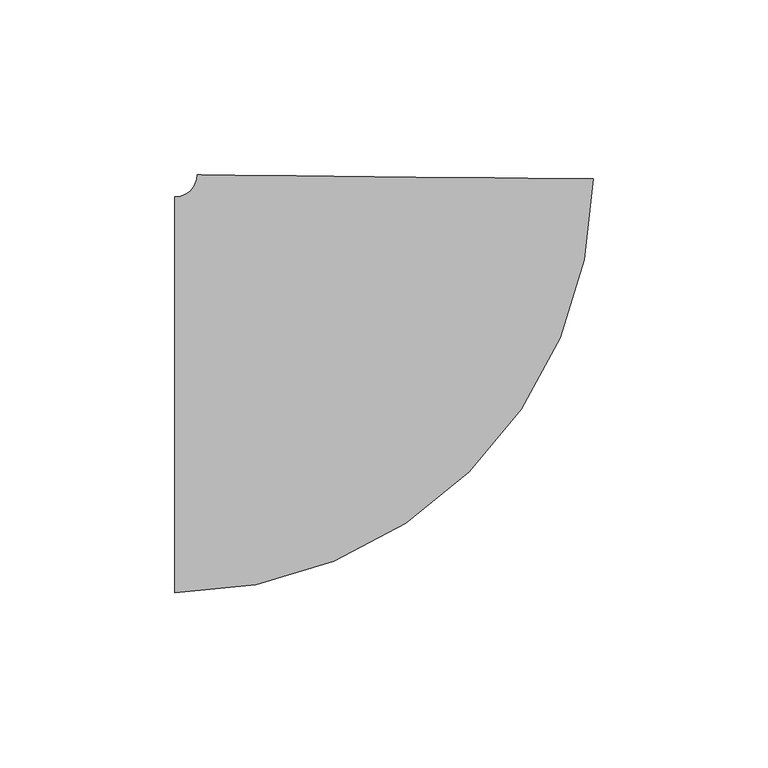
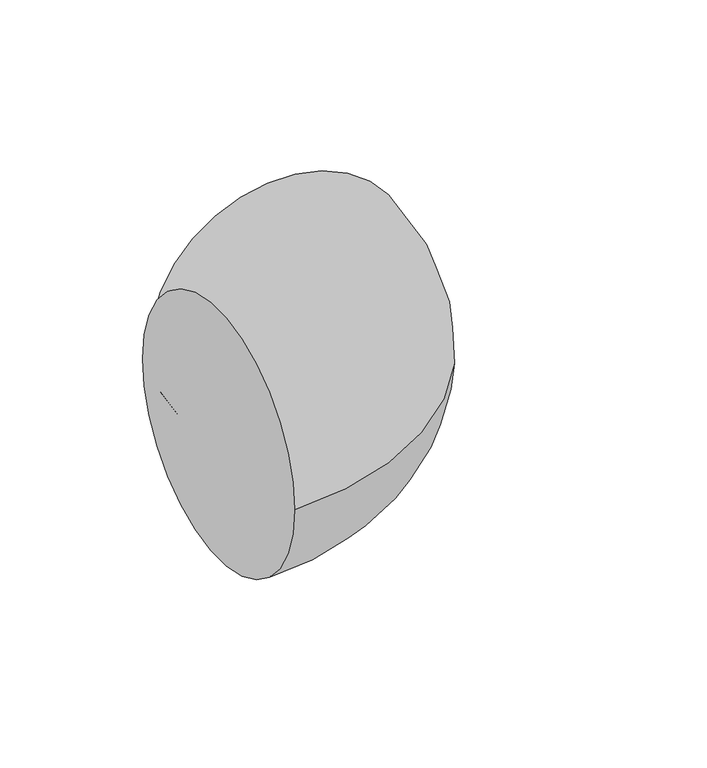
"""IFC4 building model written with IfcOpenShell, lengths in millimetres: pipe fitting geometry, M_Codo - Genérico : Estándar."""

from ifc_helpers import new_model, si_unit, point, frame, origin, place, context, project, spatial, circle_curve, ellipse_curve, trimmed, source, transform, mapped, element, save
from ifc_brep_helpers import plane_surface, revolved_surface, advanced_brep


def pipe_fitting_0698fb7b(model_context):
    return source(origin(), model_context, "Body", "AdvancedBrep", [
        advanced_brep(
        [(-62.3112543, -56.5875, 0.0), (-62.3112543, 56.5875, 0.0), (57.2077696, 61.7422762, 0.0), (-55.9615718, 62.8740014, 0.0)],
        [
            (0, 1, circle_curve(frame((-62.3112543, 0.0, 0.0), z_axis=(-1.0, 0.0, 0.0), x_axis=(0.0, 1.0, 0.0)), 56.5875)),
            (1, 0, circle_curve(frame((-62.3112543, 0.0, 0.0), z_axis=(-1.0, 0.0, 0.0), x_axis=(0.0, 1.0, 0.0)), 56.5875)),
            (2, 3, circle_curve(frame((0.6230989, 62.3081388, 0.0), z_axis=(0.009999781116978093, 0.9999500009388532, 0.0), x_axis=(-0.9999500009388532, 0.009999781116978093, 0.0)), 56.5875)),
            (3, 2, circle_curve(frame((0.6230989, 62.3081388, 0.0), z_axis=(0.009999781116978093, 0.9999500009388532, 0.0), x_axis=(-0.9999500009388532, 0.009999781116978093, 0.0)), 56.5875)),
            (3, 1, circle_curve(frame((-62.3112543, 62.9375, 0.0), z_axis=(0.0, 0.0, -1.0), x_axis=(0.0, -1.0, 0.0)), 6.35)),
            (0, 2, circle_curve(frame((-62.3112543, 62.9375, 0.0), z_axis=(0.0, 0.0, 1.0), x_axis=(0.0, -1.0, 0.0)), 119.525)),
        ],
        [
            plane_surface(frame((-62.3112543, 0.0, 0.0), z_axis=(-1.0, 0.0, 0.0), x_axis=(0.0, 0.0, 1.0))),
            plane_surface(frame((0.6230989, 62.3081388, 0.0), z_axis=(0.00999978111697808, 0.9999500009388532, 0.0), x_axis=(0.0, 0.0, 1.0))),
            revolved_surface(trimmed(ellipse_curve(frame((-62.3112543, 0.0, 0.0), z_axis=(-1.0, 0.0, 0.0), x_axis=(0.0, 1.0, 0.0)), 56.5875, 56.5875), [point((-62.3112543, -56.5875, 0.0))], [point((-62.3112543, 56.5875, 0.0))], True, "CARTESIAN"), (-62.3112543, 62.9375, 0.0), (0.0, 0.0, 1.0)),
            revolved_surface(trimmed(ellipse_curve(frame((-62.3112543, 0.0, 0.0), z_axis=(-1.0, 0.0, 0.0), x_axis=(0.0, 1.0, 0.0)), 56.5875, 56.5875), [point((-62.3112543, 56.5875, 0.0))], [point((-62.3112543, -56.5875, 0.0))], True, "CARTESIAN"), (-62.3112543, 62.9375, 0.0), (0.0, 0.0, 1.0)),
        ],
        [
            (0, [[1, 2]]),
            (1, [[3, 4]]),
            (2, [[5, -1, 6, -4]]),
            (3, [[-6, -2, -5, -3]]),
        ],
    ),
    ])


if __name__ == "__main__":
    model = new_model("IFC4")
    model_context = context("Model", 3, world=origin())
    ifc_project = project(units=[si_unit("LENGTHUNIT", "METRE", prefix="MILLI")], contexts=[model_context])
    site = spatial("IfcSite", under=ifc_project)
    building = spatial("IfcBuilding", under=site)
    placement = place(None, origin())
    pipe_fitting_shape = pipe_fitting_0698fb7b(model_context)
    element("IfcPipeFitting", 1, ObjectType="M_Codo - Genérico : Estándar", at=placement, inside=building, context=model_context, shape_type="MappedRepresentation", body=[
        mapped(pipe_fitting_shape, transform((0.0, 0.0, 0.0), x_axis=(1.0, 0.0, 0.0), y_axis=(0.0, 1.0, 0.0), z_axis=(0.0, 0.0, 1.0))),
    ])
    save(model, "model.ifc")
